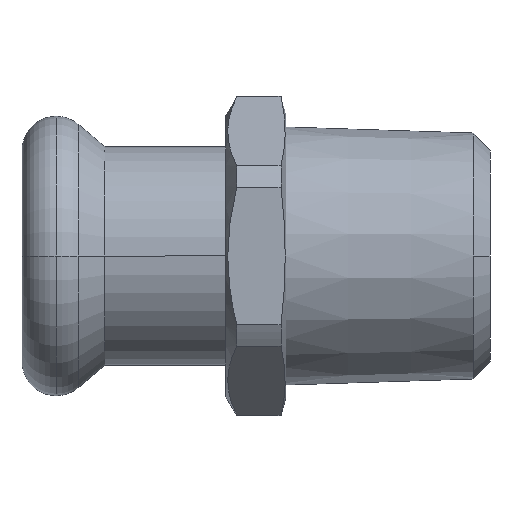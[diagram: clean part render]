
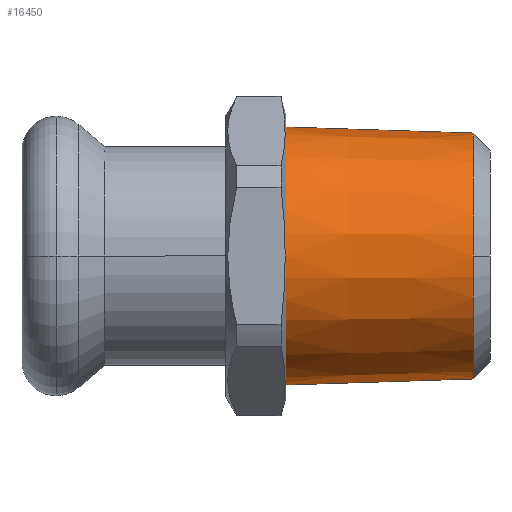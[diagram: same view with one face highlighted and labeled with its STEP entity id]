
A CAD part, front view. The second image highlights one B-rep face of the part: STEP entity #16450.
In plain terms, the highlighted conical face has half-angle 1.853 degrees and reference radius 10.75 mm.
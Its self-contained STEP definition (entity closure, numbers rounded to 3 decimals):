
#370=CARTESIAN_POINT('',(-68.571,21.24,
0.));
#380=DIRECTION('',(-1.,0.,0.));
#390=DIRECTION('',(0.,0.,1.));
#400=AXIS2_PLACEMENT_3D('',#370,#380,#390);
#410=CONICAL_SURFACE('',#400,10.75,0.032);
#420=CARTESIAN_POINT('',(-68.571,21.24,10.75));
#430=DIRECTION('',(-0.999,0.,0.032));
#440=VECTOR('',#430,332.447);
#450=LINE('',#420,#440);
#460=CARTESIAN_POINT('',(-52.97,21.24,
10.245));
#470=VERTEX_POINT('',#460);
#480=CARTESIAN_POINT('',(-68.571,21.24,10.75));
#490=VERTEX_POINT('',#480);
#500=EDGE_CURVE('',#470,#490,#450,.T.);
#520=CARTESIAN_POINT('',(-68.571,21.24,
0.));
#530=DIRECTION('',(-1.,0.,0.));
#540=DIRECTION('',(0.,-0.866,0.5));
#550=AXIS2_PLACEMENT_3D('',#520,#530,#540);
#560=CIRCLE('',#550,10.75);
#610=CARTESIAN_POINT('',(-68.571,21.24,-10.75));
#620=VERTEX_POINT('',#610);
#650=CARTESIAN_POINT('',(-68.571,21.24,-10.75));
#660=DIRECTION('',(-0.999,0.,
-0.032));
#670=VECTOR('',#660,332.447);
#680=LINE('',#650,#670);
#690=CARTESIAN_POINT('',(-52.97,21.24,
-10.245));
#700=VERTEX_POINT('',#690);
#710=EDGE_CURVE('',#700,#620,#680,.T.);
#730=CARTESIAN_POINT('',(-52.97,21.24,
0.));
#740=DIRECTION('',(-1.,0.,0.));
#750=DIRECTION('',(0.,0.,-1.));
#760=AXIS2_PLACEMENT_3D('',#730,#740,#750);
#770=CIRCLE('',#760,10.245);
#2220=CARTESIAN_POINT('',(-52.97,10.994,
0.));
#2230=VERTEX_POINT('',#2220);
#2260=EDGE_CURVE('',#2230,#470,#770,.T.);
#7280=EDGE_CURVE('',#620,#490,#560,.T.);
#16370=ORIENTED_EDGE('',*,*,#2260,.T.);
#16380=EDGE_CURVE('',#700,#2230,#770,.T.);
#16390=ORIENTED_EDGE('',*,*,#16380,.T.);
#16400=ORIENTED_EDGE('',*,*,#710,.F.);
#16410=ORIENTED_EDGE('',*,*,#7280,.F.);
#16420=ORIENTED_EDGE('',*,*,#500,.T.);
#16430=EDGE_LOOP('',(#16420,#16410,#16400,#16390,#16370));
#16440=FACE_OUTER_BOUND('',#16430,.T.);
#16450=ADVANCED_FACE('',(#16440),#410,.T.);
